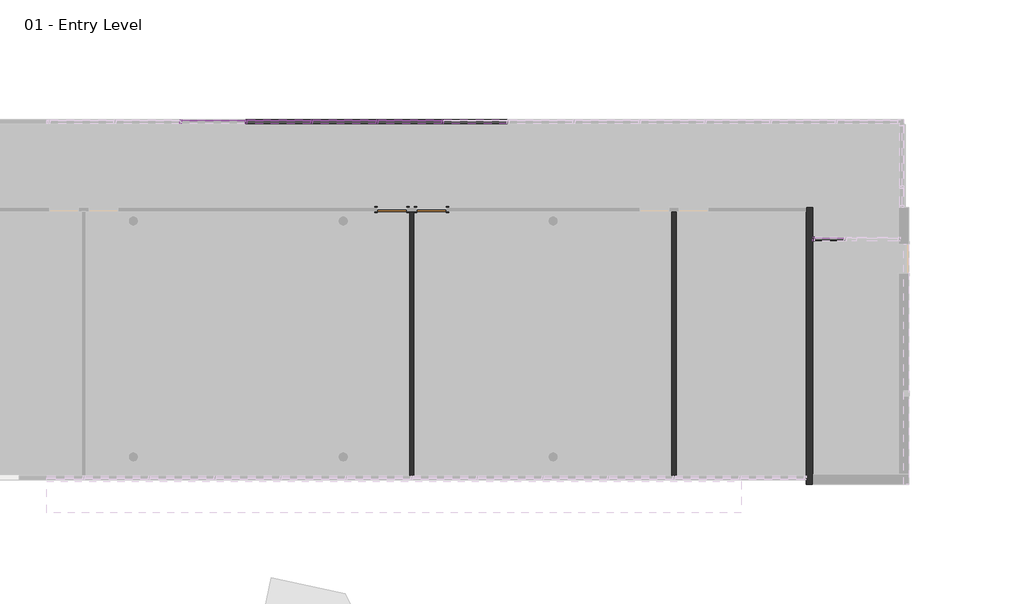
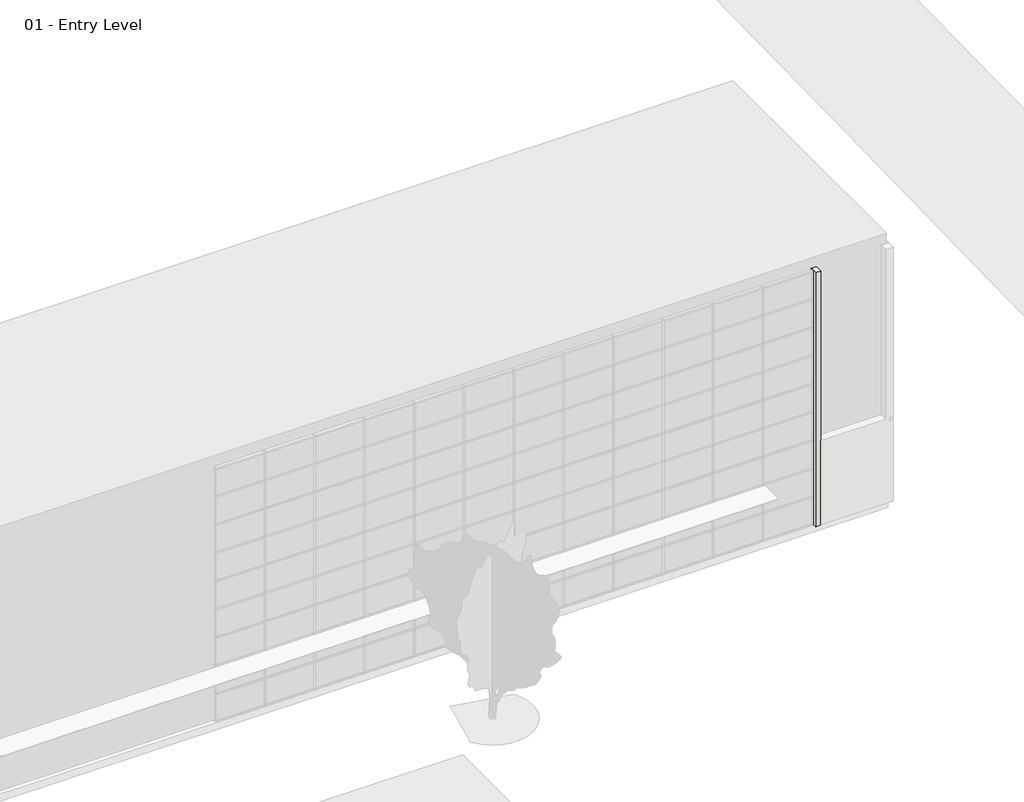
# One storey, part 20 of 34: 83 members, 38 plates, 3 doors, 3 walls.
"""IFC4 building model written with IfcOpenShell, lengths in millimetres."""

from ifc_helpers import new_model, si_unit, origin, origin_with_axes, place, context, project, spatial, polyline, outline, extrude, faceted_brep, transform, mapped, element, save
from components import curtain_wall_sgl_glass_curtain_wall_sgl_glass_ab2568d1, door_a1797ceb, door_a3eb833a, member_2b49869a, member_9193c932, member_391b434c, member_9e90ae50, member_c327c56d, member_a50b3cda, system_panel_glazed_1b9d6098, system_panel_glazed_70da479d, system_panel_glazed_63e32c76, system_panel_glazed_72fe8651

model = new_model("IFC4")

# Units and contexts
model_context = context("Model", 3, world=origin())
ifc_project = project(units=[si_unit("LENGTHUNIT", "METRE", prefix="MILLI")], contexts=[model_context])

# Site, building, storey
site = spatial("IfcSite", under=ifc_project)
building = spatial("IfcBuilding", under=site)
storey = spatial("IfcBuildingStorey", under=building, Name="01 - Entry Level", Elevation=0.0)

# Doors
placement = place(None, origin())
curtain_wall_sgl_glass_curtain_wall_sgl_glass_shape = curtain_wall_sgl_glass_curtain_wall_sgl_glass_ab2568d1(model_context)
element("IfcDoor", 1, ObjectType="Curtain Wall Sgl Glass : Curtain Wall Sgl Glass", at=placement, inside=storey, context=model_context, shape_type="MappedRepresentation", body=[
    mapped(curtain_wall_sgl_glass_curtain_wall_sgl_glass_shape, transform((63869.2207476, 7356.4, 0.0), x_axis=(-1.0, 0.0, 0.0), y_axis=(0.0, -1.0, 0.0), z_axis=(0.0, 0.0, 1.0))),
])
door_shape = door_a1797ceb(model_context)
element("IfcDoor", 2, ObjectType="Single-Flush : 36\" x 84\"", at=placement, inside=storey, context=model_context, shape_type="MappedRepresentation", body=[
    mapped(door_shape, transform((51524.8207476, 8270.8, 0.0), x_axis=(-1.0, 0.0, 0.0), y_axis=(0.0, -1.0, 0.0), z_axis=(0.0, 0.0, 1.0))),
])
door_2_shape = door_a3eb833a(model_context)
element("IfcDoor", 3, ObjectType="Single-Flush : 36\" x 84\"", at=placement, inside=storey, context=model_context, shape_type="MappedRepresentation", body=[
    mapped(door_2_shape, transform((50305.6207476, 8270.8, 0.0), x_axis=(1.0, 0.0, 0.0), y_axis=(0.0, 1.0, 0.0), z_axis=(0.0, 0.0, 1.0))),
])

# Members
member_shape = member_2b49869a(model_context)
element("IfcMember", 4, ObjectType="Rectangular Mullion : 2.5\" x 5\" rectangular", at=placement, inside=storey, context=model_context, shape_type="MappedRepresentation", body=[
    mapped(member_shape, transform((51880.4207476, 11001.3, 9753.6), x_axis=(-1.0, 0.0, 0.0), y_axis=(0.0, 1.0, 0.0), z_axis=(0.0, 0.0, -1.0))),
])
element("IfcMember", 5, ObjectType="Rectangular Mullion : 2.5\" x 5\" rectangular", at=placement, inside=storey, context=model_context, shape_type="MappedRepresentation", body=[
    mapped(member_shape, transform((49848.4207476, 11001.3, 9753.6), x_axis=(-1.0, 0.0, 0.0), y_axis=(0.0, 1.0, 0.0), z_axis=(0.0, 0.0, -1.0))),
])
element("IfcMember", 6, ObjectType="Rectangular Mullion : 2.5\" x 5\" rectangular", at=placement, inside=storey, context=model_context, shape_type="MappedRepresentation", body=[
    mapped(member_shape, transform((47816.4207476, 11001.3, 9753.6), x_axis=(-1.0, 0.0, 0.0), y_axis=(0.0, 1.0, 0.0), z_axis=(0.0, 0.0, -1.0))),
])
element("IfcMember", 7, ObjectType="Rectangular Mullion : 2.5\" x 5\" rectangular", at=placement, inside=storey, context=model_context, shape_type="MappedRepresentation", body=[
    mapped(member_shape, transform((45784.4207476, 11001.3, 9753.6), x_axis=(-1.0, 0.0, 0.0), y_axis=(0.0, 1.0, 0.0), z_axis=(0.0, 0.0, -1.0))),
])
element("IfcMember", 8, ObjectType="Rectangular Mullion : 2.5\" x 5\" rectangular", at=placement, inside=storey, context=model_context, shape_type="MappedRepresentation", body=[
    mapped(member_shape, transform((43752.4207476, 11001.3, 9753.6), x_axis=(-1.0, 0.0, 0.0), y_axis=(0.0, 1.0, 0.0), z_axis=(0.0, 0.0, -1.0))),
])
member_2_shape = member_9193c932(model_context)
element("IfcMember", 9, ObjectType="Rectangular Mullion : 2.5\" x 5\" rectangular", at=placement, inside=storey, context=model_context, shape_type="MappedRepresentation", body=[
    mapped(member_2_shape, transform((63348.5207476, 7356.4, 3403.6), x_axis=(-1.0, 0.0, 0.0), y_axis=(0.0, -1.0, 0.0), z_axis=(0.0, 0.0, 1.0))),
])
member_3_shape = member_391b434c(model_context)
element("IfcMember", 10, ObjectType="Rectangular Mullion : 2.5\" x 5\" rectangular", at=placement, inside=storey, context=model_context, shape_type="MappedRepresentation", body=[
    mapped(member_3_shape, transform((51912.1707476, 11001.3, 10972.8), x_axis=(0.0, 0.0, 1.0), y_axis=(0.0, 1.0, 0.0), z_axis=(-1.0, 0.0, 0.0))),
])
element("IfcMember", 11, ObjectType="Rectangular Mullion : 2.5\" x 5\" rectangular", at=placement, inside=storey, context=model_context, shape_type="MappedRepresentation", body=[
    mapped(member_3_shape, transform((49880.1707476, 11001.3, 10972.8), x_axis=(0.0, 0.0, 1.0), y_axis=(0.0, 1.0, 0.0), z_axis=(-1.0, 0.0, 0.0))),
])
element("IfcMember", 12, ObjectType="Rectangular Mullion : 2.5\" x 5\" rectangular", at=placement, inside=storey, context=model_context, shape_type="MappedRepresentation", body=[
    mapped(member_3_shape, transform((47848.1707476, 11001.3, 10972.8), x_axis=(0.0, 0.0, 1.0), y_axis=(0.0, 1.0, 0.0), z_axis=(-1.0, 0.0, 0.0))),
])
element("IfcMember", 13, ObjectType="Rectangular Mullion : 2.5\" x 5\" rectangular", at=placement, inside=storey, context=model_context, shape_type="MappedRepresentation", body=[
    mapped(member_3_shape, transform((45816.1707476, 11001.3, 10972.8), x_axis=(0.0, 0.0, 1.0), y_axis=(0.0, 1.0, 0.0), z_axis=(-1.0, 0.0, 0.0))),
])
element("IfcMember", 14, ObjectType="Rectangular Mullion : 2.5\" x 5\" rectangular", at=placement, inside=storey, context=model_context, shape_type="MappedRepresentation", body=[
    mapped(member_3_shape, transform((51848.6707476, 11001.3, 0.0), x_axis=(0.0, 0.0, -1.0), y_axis=(0.0, 1.0, 0.0), z_axis=(1.0, 0.0, 0.0))),
])
element("IfcMember", 15, ObjectType="Rectangular Mullion : 2.5\" x 5\" rectangular", at=placement, inside=storey, context=model_context, shape_type="MappedRepresentation", body=[
    mapped(member_3_shape, transform((49816.6707476, 11001.3, 0.0), x_axis=(0.0, 0.0, -1.0), y_axis=(0.0, 1.0, 0.0), z_axis=(1.0, 0.0, 0.0))),
])
element("IfcMember", 16, ObjectType="Rectangular Mullion : 2.5\" x 5\" rectangular", at=placement, inside=storey, context=model_context, shape_type="MappedRepresentation", body=[
    mapped(member_3_shape, transform((47784.6707476, 11001.3, 0.0), x_axis=(0.0, 0.0, -1.0), y_axis=(0.0, 1.0, 0.0), z_axis=(1.0, 0.0, 0.0))),
])
element("IfcMember", 17, ObjectType="Rectangular Mullion : 2.5\" x 5\" rectangular", at=placement, inside=storey, context=model_context, shape_type="MappedRepresentation", body=[
    mapped(member_3_shape, transform((45752.6707476, 11001.3, 0.0), x_axis=(0.0, 0.0, -1.0), y_axis=(0.0, 1.0, 0.0), z_axis=(1.0, 0.0, 0.0))),
])
member_4_shape = member_9e90ae50(model_context)
element("IfcMember", 18, ObjectType="Rectangular Mullion : 2.5\" x 5\" rectangular", at=placement, inside=storey, context=model_context, shape_type="MappedRepresentation", body=[
    mapped(member_4_shape, transform((51912.1707476, 11001.3, 1219.2), x_axis=(0.0, 0.0, 1.0), y_axis=(0.0, 1.0, 0.0), z_axis=(-1.0, 0.0, 0.0))),
])
element("IfcMember", 19, ObjectType="Rectangular Mullion : 2.5\" x 5\" rectangular", at=placement, inside=storey, context=model_context, shape_type="MappedRepresentation", body=[
    mapped(member_4_shape, transform((49880.1707476, 11001.3, 1219.2), x_axis=(0.0, 0.0, 1.0), y_axis=(0.0, 1.0, 0.0), z_axis=(-1.0, 0.0, 0.0))),
])
element("IfcMember", 20, ObjectType="Rectangular Mullion : 2.5\" x 5\" rectangular", at=placement, inside=storey, context=model_context, shape_type="MappedRepresentation", body=[
    mapped(member_4_shape, transform((47848.1707476, 11001.3, 1219.2), x_axis=(0.0, 0.0, 1.0), y_axis=(0.0, 1.0, 0.0), z_axis=(-1.0, 0.0, 0.0))),
])
element("IfcMember", 21, ObjectType="Rectangular Mullion : 2.5\" x 5\" rectangular", at=placement, inside=storey, context=model_context, shape_type="MappedRepresentation", body=[
    mapped(member_4_shape, transform((45816.1707476, 11001.3, 1219.2), x_axis=(0.0, 0.0, 1.0), y_axis=(0.0, 1.0, 0.0), z_axis=(-1.0, 0.0, 0.0))),
])
element("IfcMember", 22, ObjectType="Rectangular Mullion : 2.5\" x 5\" rectangular", at=placement, inside=storey, context=model_context, shape_type="MappedRepresentation", body=[
    mapped(member_4_shape, transform((51912.1707476, 11001.3, 2438.4), x_axis=(0.0, 0.0, 1.0), y_axis=(0.0, 1.0, 0.0), z_axis=(-1.0, 0.0, 0.0))),
])
element("IfcMember", 23, ObjectType="Rectangular Mullion : 2.5\" x 5\" rectangular", at=placement, inside=storey, context=model_context, shape_type="MappedRepresentation", body=[
    mapped(member_4_shape, transform((49880.1707476, 11001.3, 2438.4), x_axis=(0.0, 0.0, 1.0), y_axis=(0.0, 1.0, 0.0), z_axis=(-1.0, 0.0, 0.0))),
])
element("IfcMember", 24, ObjectType="Rectangular Mullion : 2.5\" x 5\" rectangular", at=placement, inside=storey, context=model_context, shape_type="MappedRepresentation", body=[
    mapped(member_4_shape, transform((47848.1707476, 11001.3, 2438.4), x_axis=(0.0, 0.0, 1.0), y_axis=(0.0, 1.0, 0.0), z_axis=(-1.0, 0.0, 0.0))),
])
element("IfcMember", 25, ObjectType="Rectangular Mullion : 2.5\" x 5\" rectangular", at=placement, inside=storey, context=model_context, shape_type="MappedRepresentation", body=[
    mapped(member_4_shape, transform((45816.1707476, 11001.3, 2438.4), x_axis=(0.0, 0.0, 1.0), y_axis=(0.0, 1.0, 0.0), z_axis=(-1.0, 0.0, 0.0))),
])
element("IfcMember", 26, ObjectType="Rectangular Mullion : 2.5\" x 5\" rectangular", at=placement, inside=storey, context=model_context, shape_type="MappedRepresentation", body=[
    mapped(member_4_shape, transform((51912.1707476, 11001.3, 3657.6), x_axis=(0.0, 0.0, 1.0), y_axis=(0.0, 1.0, 0.0), z_axis=(-1.0, 0.0, 0.0))),
])
element("IfcMember", 27, ObjectType="Rectangular Mullion : 2.5\" x 5\" rectangular", at=placement, inside=storey, context=model_context, shape_type="MappedRepresentation", body=[
    mapped(member_4_shape, transform((49880.1707476, 11001.3, 3657.6), x_axis=(0.0, 0.0, 1.0), y_axis=(0.0, 1.0, 0.0), z_axis=(-1.0, 0.0, 0.0))),
])
element("IfcMember", 28, ObjectType="Rectangular Mullion : 2.5\" x 5\" rectangular", at=placement, inside=storey, context=model_context, shape_type="MappedRepresentation", body=[
    mapped(member_4_shape, transform((47848.1707476, 11001.3, 3657.6), x_axis=(0.0, 0.0, 1.0), y_axis=(0.0, 1.0, 0.0), z_axis=(-1.0, 0.0, 0.0))),
])
element("IfcMember", 29, ObjectType="Rectangular Mullion : 2.5\" x 5\" rectangular", at=placement, inside=storey, context=model_context, shape_type="MappedRepresentation", body=[
    mapped(member_4_shape, transform((45816.1707476, 11001.3, 3657.6), x_axis=(0.0, 0.0, 1.0), y_axis=(0.0, 1.0, 0.0), z_axis=(-1.0, 0.0, 0.0))),
])
element("IfcMember", 30, ObjectType="Rectangular Mullion : 2.5\" x 5\" rectangular", at=placement, inside=storey, context=model_context, shape_type="MappedRepresentation", body=[
    mapped(member_4_shape, transform((51912.1707476, 11001.3, 4876.8), x_axis=(0.0, 0.0, 1.0), y_axis=(0.0, 1.0, 0.0), z_axis=(-1.0, 0.0, 0.0))),
])
element("IfcMember", 31, ObjectType="Rectangular Mullion : 2.5\" x 5\" rectangular", at=placement, inside=storey, context=model_context, shape_type="MappedRepresentation", body=[
    mapped(member_4_shape, transform((49880.1707476, 11001.3, 4876.8), x_axis=(0.0, 0.0, 1.0), y_axis=(0.0, 1.0, 0.0), z_axis=(-1.0, 0.0, 0.0))),
])
element("IfcMember", 32, ObjectType="Rectangular Mullion : 2.5\" x 5\" rectangular", at=placement, inside=storey, context=model_context, shape_type="MappedRepresentation", body=[
    mapped(member_4_shape, transform((47848.1707476, 11001.3, 4876.8), x_axis=(0.0, 0.0, 1.0), y_axis=(0.0, 1.0, 0.0), z_axis=(-1.0, 0.0, 0.0))),
])
element("IfcMember", 33, ObjectType="Rectangular Mullion : 2.5\" x 5\" rectangular", at=placement, inside=storey, context=model_context, shape_type="MappedRepresentation", body=[
    mapped(member_4_shape, transform((45816.1707476, 11001.3, 4876.8), x_axis=(0.0, 0.0, 1.0), y_axis=(0.0, 1.0, 0.0), z_axis=(-1.0, 0.0, 0.0))),
])
element("IfcMember", 34, ObjectType="Rectangular Mullion : 2.5\" x 5\" rectangular", at=placement, inside=storey, context=model_context, shape_type="MappedRepresentation", body=[
    mapped(member_4_shape, transform((51912.1707476, 11001.3, 6096.0), x_axis=(0.0, 0.0, 1.0), y_axis=(0.0, 1.0, 0.0), z_axis=(-1.0, 0.0, 0.0))),
])
element("IfcMember", 35, ObjectType="Rectangular Mullion : 2.5\" x 5\" rectangular", at=placement, inside=storey, context=model_context, shape_type="MappedRepresentation", body=[
    mapped(member_4_shape, transform((49880.1707476, 11001.3, 6096.0), x_axis=(0.0, 0.0, 1.0), y_axis=(0.0, 1.0, 0.0), z_axis=(-1.0, 0.0, 0.0))),
])
element("IfcMember", 36, ObjectType="Rectangular Mullion : 2.5\" x 5\" rectangular", at=placement, inside=storey, context=model_context, shape_type="MappedRepresentation", body=[
    mapped(member_4_shape, transform((47848.1707476, 11001.3, 6096.0), x_axis=(0.0, 0.0, 1.0), y_axis=(0.0, 1.0, 0.0), z_axis=(-1.0, 0.0, 0.0))),
])
element("IfcMember", 37, ObjectType="Rectangular Mullion : 2.5\" x 5\" rectangular", at=placement, inside=storey, context=model_context, shape_type="MappedRepresentation", body=[
    mapped(member_4_shape, transform((45816.1707476, 11001.3, 6096.0), x_axis=(0.0, 0.0, 1.0), y_axis=(0.0, 1.0, 0.0), z_axis=(-1.0, 0.0, 0.0))),
])
element("IfcMember", 38, ObjectType="Rectangular Mullion : 2.5\" x 5\" rectangular", at=placement, inside=storey, context=model_context, shape_type="MappedRepresentation", body=[
    mapped(member_4_shape, transform((51912.1707476, 11001.3, 7315.2), x_axis=(0.0, 0.0, 1.0), y_axis=(0.0, 1.0, 0.0), z_axis=(-1.0, 0.0, 0.0))),
])
element("IfcMember", 39, ObjectType="Rectangular Mullion : 2.5\" x 5\" rectangular", at=placement, inside=storey, context=model_context, shape_type="MappedRepresentation", body=[
    mapped(member_4_shape, transform((49880.1707476, 11001.3, 7315.2), x_axis=(0.0, 0.0, 1.0), y_axis=(0.0, 1.0, 0.0), z_axis=(-1.0, 0.0, 0.0))),
])
element("IfcMember", 40, ObjectType="Rectangular Mullion : 2.5\" x 5\" rectangular", at=placement, inside=storey, context=model_context, shape_type="MappedRepresentation", body=[
    mapped(member_4_shape, transform((47848.1707476, 11001.3, 7315.2), x_axis=(0.0, 0.0, 1.0), y_axis=(0.0, 1.0, 0.0), z_axis=(-1.0, 0.0, 0.0))),
])
element("IfcMember", 41, ObjectType="Rectangular Mullion : 2.5\" x 5\" rectangular", at=placement, inside=storey, context=model_context, shape_type="MappedRepresentation", body=[
    mapped(member_4_shape, transform((45816.1707476, 11001.3, 7315.2), x_axis=(0.0, 0.0, 1.0), y_axis=(0.0, 1.0, 0.0), z_axis=(-1.0, 0.0, 0.0))),
])
element("IfcMember", 42, ObjectType="Rectangular Mullion : 2.5\" x 5\" rectangular", at=placement, inside=storey, context=model_context, shape_type="MappedRepresentation", body=[
    mapped(member_4_shape, transform((51912.1707476, 11001.3, 8534.4), x_axis=(0.0, 0.0, 1.0), y_axis=(0.0, 1.0, 0.0), z_axis=(-1.0, 0.0, 0.0))),
])
element("IfcMember", 43, ObjectType="Rectangular Mullion : 2.5\" x 5\" rectangular", at=placement, inside=storey, context=model_context, shape_type="MappedRepresentation", body=[
    mapped(member_4_shape, transform((49880.1707476, 11001.3, 8534.4), x_axis=(0.0, 0.0, 1.0), y_axis=(0.0, 1.0, 0.0), z_axis=(-1.0, 0.0, 0.0))),
])
element("IfcMember", 44, ObjectType="Rectangular Mullion : 2.5\" x 5\" rectangular", at=placement, inside=storey, context=model_context, shape_type="MappedRepresentation", body=[
    mapped(member_4_shape, transform((47848.1707476, 11001.3, 8534.4), x_axis=(0.0, 0.0, 1.0), y_axis=(0.0, 1.0, 0.0), z_axis=(-1.0, 0.0, 0.0))),
])
element("IfcMember", 45, ObjectType="Rectangular Mullion : 2.5\" x 5\" rectangular", at=placement, inside=storey, context=model_context, shape_type="MappedRepresentation", body=[
    mapped(member_4_shape, transform((45816.1707476, 11001.3, 8534.4), x_axis=(0.0, 0.0, 1.0), y_axis=(0.0, 1.0, 0.0), z_axis=(-1.0, 0.0, 0.0))),
])
element("IfcMember", 46, ObjectType="Rectangular Mullion : 2.5\" x 5\" rectangular", at=placement, inside=storey, context=model_context, shape_type="MappedRepresentation", body=[
    mapped(member_4_shape, transform((51912.1707476, 11001.3, 9753.6), x_axis=(0.0, 0.0, 1.0), y_axis=(0.0, 1.0, 0.0), z_axis=(-1.0, 0.0, 0.0))),
])
element("IfcMember", 47, ObjectType="Rectangular Mullion : 2.5\" x 5\" rectangular", at=placement, inside=storey, context=model_context, shape_type="MappedRepresentation", body=[
    mapped(member_4_shape, transform((49880.1707476, 11001.3, 9753.6), x_axis=(0.0, 0.0, 1.0), y_axis=(0.0, 1.0, 0.0), z_axis=(-1.0, 0.0, 0.0))),
])
element("IfcMember", 48, ObjectType="Rectangular Mullion : 2.5\" x 5\" rectangular", at=placement, inside=storey, context=model_context, shape_type="MappedRepresentation", body=[
    mapped(member_4_shape, transform((47848.1707476, 11001.3, 9753.6), x_axis=(0.0, 0.0, 1.0), y_axis=(0.0, 1.0, 0.0), z_axis=(-1.0, 0.0, 0.0))),
])
element("IfcMember", 49, ObjectType="Rectangular Mullion : 2.5\" x 5\" rectangular", at=placement, inside=storey, context=model_context, shape_type="MappedRepresentation", body=[
    mapped(member_4_shape, transform((45816.1707476, 11001.3, 9753.6), x_axis=(0.0, 0.0, 1.0), y_axis=(0.0, 1.0, 0.0), z_axis=(-1.0, 0.0, 0.0))),
])
element("IfcMember", 50, ObjectType="Rectangular Mullion : 2.5\" x 5\" rectangular", at=placement, inside=storey, context=model_context, shape_type="MappedRepresentation", body=[
    mapped(member_shape, transform((51880.4207476, 11001.3, 0.0), x_axis=(-1.0, 0.0, 0.0), y_axis=(0.0, 1.0, 0.0), z_axis=(0.0, 0.0, -1.0))),
])
element("IfcMember", 51, ObjectType="Rectangular Mullion : 2.5\" x 5\" rectangular", at=placement, inside=storey, context=model_context, shape_type="MappedRepresentation", body=[
    mapped(member_shape, transform((49848.4207476, 11001.3, 0.0), x_axis=(-1.0, 0.0, 0.0), y_axis=(0.0, 1.0, 0.0), z_axis=(0.0, 0.0, -1.0))),
])
element("IfcMember", 52, ObjectType="Rectangular Mullion : 2.5\" x 5\" rectangular", at=placement, inside=storey, context=model_context, shape_type="MappedRepresentation", body=[
    mapped(member_shape, transform((47816.4207476, 11001.3, 0.0), x_axis=(-1.0, 0.0, 0.0), y_axis=(0.0, 1.0, 0.0), z_axis=(0.0, 0.0, -1.0))),
])
element("IfcMember", 53, ObjectType="Rectangular Mullion : 2.5\" x 5\" rectangular", at=placement, inside=storey, context=model_context, shape_type="MappedRepresentation", body=[
    mapped(member_shape, transform((45784.4207476, 11001.3, 0.0), x_axis=(-1.0, 0.0, 0.0), y_axis=(0.0, 1.0, 0.0), z_axis=(0.0, 0.0, -1.0))),
])
element("IfcMember", 54, ObjectType="Rectangular Mullion : 2.5\" x 5\" rectangular", at=placement, inside=storey, context=model_context, shape_type="MappedRepresentation", body=[
    mapped(member_shape, transform((51880.4207476, 11001.3, 1219.2), x_axis=(-1.0, 0.0, 0.0), y_axis=(0.0, 1.0, 0.0), z_axis=(0.0, 0.0, -1.0))),
])
element("IfcMember", 55, ObjectType="Rectangular Mullion : 2.5\" x 5\" rectangular", at=placement, inside=storey, context=model_context, shape_type="MappedRepresentation", body=[
    mapped(member_shape, transform((49848.4207476, 11001.3, 1219.2), x_axis=(-1.0, 0.0, 0.0), y_axis=(0.0, 1.0, 0.0), z_axis=(0.0, 0.0, -1.0))),
])
element("IfcMember", 56, ObjectType="Rectangular Mullion : 2.5\" x 5\" rectangular", at=placement, inside=storey, context=model_context, shape_type="MappedRepresentation", body=[
    mapped(member_shape, transform((47816.4207476, 11001.3, 1219.2), x_axis=(-1.0, 0.0, 0.0), y_axis=(0.0, 1.0, 0.0), z_axis=(0.0, 0.0, -1.0))),
])
element("IfcMember", 57, ObjectType="Rectangular Mullion : 2.5\" x 5\" rectangular", at=placement, inside=storey, context=model_context, shape_type="MappedRepresentation", body=[
    mapped(member_shape, transform((45784.4207476, 11001.3, 1219.2), x_axis=(-1.0, 0.0, 0.0), y_axis=(0.0, 1.0, 0.0), z_axis=(0.0, 0.0, -1.0))),
])
element("IfcMember", 58, ObjectType="Rectangular Mullion : 2.5\" x 5\" rectangular", at=placement, inside=storey, context=model_context, shape_type="MappedRepresentation", body=[
    mapped(member_shape, transform((51880.4207476, 11001.3, 2438.4), x_axis=(-1.0, 0.0, 0.0), y_axis=(0.0, 1.0, 0.0), z_axis=(0.0, 0.0, -1.0))),
])
element("IfcMember", 59, ObjectType="Rectangular Mullion : 2.5\" x 5\" rectangular", at=placement, inside=storey, context=model_context, shape_type="MappedRepresentation", body=[
    mapped(member_shape, transform((49848.4207476, 11001.3, 2438.4), x_axis=(-1.0, 0.0, 0.0), y_axis=(0.0, 1.0, 0.0), z_axis=(0.0, 0.0, -1.0))),
])
element("IfcMember", 60, ObjectType="Rectangular Mullion : 2.5\" x 5\" rectangular", at=placement, inside=storey, context=model_context, shape_type="MappedRepresentation", body=[
    mapped(member_shape, transform((47816.4207476, 11001.3, 2438.4), x_axis=(-1.0, 0.0, 0.0), y_axis=(0.0, 1.0, 0.0), z_axis=(0.0, 0.0, -1.0))),
])
element("IfcMember", 61, ObjectType="Rectangular Mullion : 2.5\" x 5\" rectangular", at=placement, inside=storey, context=model_context, shape_type="MappedRepresentation", body=[
    mapped(member_shape, transform((45784.4207476, 11001.3, 2438.4), x_axis=(-1.0, 0.0, 0.0), y_axis=(0.0, 1.0, 0.0), z_axis=(0.0, 0.0, -1.0))),
])
element("IfcMember", 62, ObjectType="Rectangular Mullion : 2.5\" x 5\" rectangular", at=placement, inside=storey, context=model_context, shape_type="MappedRepresentation", body=[
    mapped(member_shape, transform((51880.4207476, 11001.3, 3657.6), x_axis=(-1.0, 0.0, 0.0), y_axis=(0.0, 1.0, 0.0), z_axis=(0.0, 0.0, -1.0))),
])
element("IfcMember", 63, ObjectType="Rectangular Mullion : 2.5\" x 5\" rectangular", at=placement, inside=storey, context=model_context, shape_type="MappedRepresentation", body=[
    mapped(member_shape, transform((49848.4207476, 11001.3, 3657.6), x_axis=(-1.0, 0.0, 0.0), y_axis=(0.0, 1.0, 0.0), z_axis=(0.0, 0.0, -1.0))),
])
element("IfcMember", 64, ObjectType="Rectangular Mullion : 2.5\" x 5\" rectangular", at=placement, inside=storey, context=model_context, shape_type="MappedRepresentation", body=[
    mapped(member_shape, transform((47816.4207476, 11001.3, 3657.6), x_axis=(-1.0, 0.0, 0.0), y_axis=(0.0, 1.0, 0.0), z_axis=(0.0, 0.0, -1.0))),
])
element("IfcMember", 65, ObjectType="Rectangular Mullion : 2.5\" x 5\" rectangular", at=placement, inside=storey, context=model_context, shape_type="MappedRepresentation", body=[
    mapped(member_shape, transform((45784.4207476, 11001.3, 3657.6), x_axis=(-1.0, 0.0, 0.0), y_axis=(0.0, 1.0, 0.0), z_axis=(0.0, 0.0, -1.0))),
])
element("IfcMember", 66, ObjectType="Rectangular Mullion : 2.5\" x 5\" rectangular", at=placement, inside=storey, context=model_context, shape_type="MappedRepresentation", body=[
    mapped(member_shape, transform((51880.4207476, 11001.3, 4876.8), x_axis=(-1.0, 0.0, 0.0), y_axis=(0.0, 1.0, 0.0), z_axis=(0.0, 0.0, -1.0))),
])
element("IfcMember", 67, ObjectType="Rectangular Mullion : 2.5\" x 5\" rectangular", at=placement, inside=storey, context=model_context, shape_type="MappedRepresentation", body=[
    mapped(member_shape, transform((49848.4207476, 11001.3, 4876.8), x_axis=(-1.0, 0.0, 0.0), y_axis=(0.0, 1.0, 0.0), z_axis=(0.0, 0.0, -1.0))),
])
element("IfcMember", 68, ObjectType="Rectangular Mullion : 2.5\" x 5\" rectangular", at=placement, inside=storey, context=model_context, shape_type="MappedRepresentation", body=[
    mapped(member_shape, transform((47816.4207476, 11001.3, 4876.8), x_axis=(-1.0, 0.0, 0.0), y_axis=(0.0, 1.0, 0.0), z_axis=(0.0, 0.0, -1.0))),
])
element("IfcMember", 69, ObjectType="Rectangular Mullion : 2.5\" x 5\" rectangular", at=placement, inside=storey, context=model_context, shape_type="MappedRepresentation", body=[
    mapped(member_shape, transform((45784.4207476, 11001.3, 4876.8), x_axis=(-1.0, 0.0, 0.0), y_axis=(0.0, 1.0, 0.0), z_axis=(0.0, 0.0, -1.0))),
])
element("IfcMember", 70, ObjectType="Rectangular Mullion : 2.5\" x 5\" rectangular", at=placement, inside=storey, context=model_context, shape_type="MappedRepresentation", body=[
    mapped(member_shape, transform((51880.4207476, 11001.3, 6096.0), x_axis=(-1.0, 0.0, 0.0), y_axis=(0.0, 1.0, 0.0), z_axis=(0.0, 0.0, -1.0))),
])
element("IfcMember", 71, ObjectType="Rectangular Mullion : 2.5\" x 5\" rectangular", at=placement, inside=storey, context=model_context, shape_type="MappedRepresentation", body=[
    mapped(member_shape, transform((49848.4207476, 11001.3, 6096.0), x_axis=(-1.0, 0.0, 0.0), y_axis=(0.0, 1.0, 0.0), z_axis=(0.0, 0.0, -1.0))),
])
element("IfcMember", 72, ObjectType="Rectangular Mullion : 2.5\" x 5\" rectangular", at=placement, inside=storey, context=model_context, shape_type="MappedRepresentation", body=[
    mapped(member_shape, transform((47816.4207476, 11001.3, 6096.0), x_axis=(-1.0, 0.0, 0.0), y_axis=(0.0, 1.0, 0.0), z_axis=(0.0, 0.0, -1.0))),
])
element("IfcMember", 73, ObjectType="Rectangular Mullion : 2.5\" x 5\" rectangular", at=placement, inside=storey, context=model_context, shape_type="MappedRepresentation", body=[
    mapped(member_shape, transform((45784.4207476, 11001.3, 6096.0), x_axis=(-1.0, 0.0, 0.0), y_axis=(0.0, 1.0, 0.0), z_axis=(0.0, 0.0, -1.0))),
])
element("IfcMember", 74, ObjectType="Rectangular Mullion : 2.5\" x 5\" rectangular", at=placement, inside=storey, context=model_context, shape_type="MappedRepresentation", body=[
    mapped(member_shape, transform((43752.4207476, 11001.3, 6096.0), x_axis=(-1.0, 0.0, 0.0), y_axis=(0.0, 1.0, 0.0), z_axis=(0.0, 0.0, -1.0))),
])
element("IfcMember", 75, ObjectType="Rectangular Mullion : 2.5\" x 5\" rectangular", at=placement, inside=storey, context=model_context, shape_type="MappedRepresentation", body=[
    mapped(member_shape, transform((51880.4207476, 11001.3, 7315.2), x_axis=(-1.0, 0.0, 0.0), y_axis=(0.0, 1.0, 0.0), z_axis=(0.0, 0.0, -1.0))),
])
element("IfcMember", 76, ObjectType="Rectangular Mullion : 2.5\" x 5\" rectangular", at=placement, inside=storey, context=model_context, shape_type="MappedRepresentation", body=[
    mapped(member_shape, transform((49848.4207476, 11001.3, 7315.2), x_axis=(-1.0, 0.0, 0.0), y_axis=(0.0, 1.0, 0.0), z_axis=(0.0, 0.0, -1.0))),
])
element("IfcMember", 77, ObjectType="Rectangular Mullion : 2.5\" x 5\" rectangular", at=placement, inside=storey, context=model_context, shape_type="MappedRepresentation", body=[
    mapped(member_shape, transform((47816.4207476, 11001.3, 7315.2), x_axis=(-1.0, 0.0, 0.0), y_axis=(0.0, 1.0, 0.0), z_axis=(0.0, 0.0, -1.0))),
])
element("IfcMember", 78, ObjectType="Rectangular Mullion : 2.5\" x 5\" rectangular", at=placement, inside=storey, context=model_context, shape_type="MappedRepresentation", body=[
    mapped(member_shape, transform((45784.4207476, 11001.3, 7315.2), x_axis=(-1.0, 0.0, 0.0), y_axis=(0.0, 1.0, 0.0), z_axis=(0.0, 0.0, -1.0))),
])
element("IfcMember", 79, ObjectType="Rectangular Mullion : 2.5\" x 5\" rectangular", at=placement, inside=storey, context=model_context, shape_type="MappedRepresentation", body=[
    mapped(member_shape, transform((43752.4207476, 11001.3, 7315.2), x_axis=(-1.0, 0.0, 0.0), y_axis=(0.0, 1.0, 0.0), z_axis=(0.0, 0.0, -1.0))),
])
element("IfcMember", 80, ObjectType="Rectangular Mullion : 2.5\" x 5\" rectangular", at=placement, inside=storey, context=model_context, shape_type="MappedRepresentation", body=[
    mapped(member_shape, transform((51880.4207476, 11001.3, 8534.4), x_axis=(-1.0, 0.0, 0.0), y_axis=(0.0, 1.0, 0.0), z_axis=(0.0, 0.0, -1.0))),
])
element("IfcMember", 81, ObjectType="Rectangular Mullion : 2.5\" x 5\" rectangular", at=placement, inside=storey, context=model_context, shape_type="MappedRepresentation", body=[
    mapped(member_shape, transform((49848.4207476, 11001.3, 8534.4), x_axis=(-1.0, 0.0, 0.0), y_axis=(0.0, 1.0, 0.0), z_axis=(0.0, 0.0, -1.0))),
])
element("IfcMember", 82, ObjectType="Rectangular Mullion : 2.5\" x 5\" rectangular", at=placement, inside=storey, context=model_context, shape_type="MappedRepresentation", body=[
    mapped(member_shape, transform((47816.4207476, 11001.3, 8534.4), x_axis=(-1.0, 0.0, 0.0), y_axis=(0.0, 1.0, 0.0), z_axis=(0.0, 0.0, -1.0))),
])
element("IfcMember", 83, ObjectType="Rectangular Mullion : 2.5\" x 5\" rectangular", at=placement, inside=storey, context=model_context, shape_type="MappedRepresentation", body=[
    mapped(member_shape, transform((45784.4207476, 11001.3, 8534.4), x_axis=(-1.0, 0.0, 0.0), y_axis=(0.0, 1.0, 0.0), z_axis=(0.0, 0.0, -1.0))),
])
element("IfcMember", 84, ObjectType="Rectangular Mullion : 2.5\" x 5\" rectangular", at=placement, inside=storey, context=model_context, shape_type="MappedRepresentation", body=[
    mapped(member_shape, transform((43752.4207476, 11001.3, 8534.4), x_axis=(-1.0, 0.0, 0.0), y_axis=(0.0, 1.0, 0.0), z_axis=(0.0, 0.0, -1.0))),
])
member_5_shape = member_c327c56d(model_context)
element("IfcMember", 85, ObjectType="Rectangular Mullion : 2.5\" x 5\" rectangular", at=placement, inside=storey, context=model_context, shape_type="MappedRepresentation", body=[
    mapped(member_5_shape, transform((63348.5207476, 7356.4, 2438.4), x_axis=(-1.0, 0.0, 0.0), y_axis=(0.0, -1.0, 0.0), z_axis=(0.0, 0.0, 1.0))),
])
member_6_shape = member_a50b3cda(model_context)
element("IfcMember", 86, ObjectType="Rectangular Mullion : 2.5\" x 5\" rectangular", at=placement, inside=storey, context=model_context, shape_type="MappedRepresentation", body=[
    mapped(member_6_shape, transform((63348.5207476, 7356.4, 2165.35), x_axis=(-1.0, 0.0, 0.0), y_axis=(0.0, -1.0, 0.0), z_axis=(0.0, 0.0, 1.0))),
])

# Plates
system_panel_glazed_shape = system_panel_glazed_1b9d6098(model_context)
element("IfcPlate", 87, ObjectType="System Panel : Glazed", at=placement, inside=storey, context=model_context, shape_type="MappedRepresentation", body=[
    mapped(system_panel_glazed_shape, transform((50864.4207476, 11001.3, 63.5), x_axis=(-1.0, 0.0, 0.0), y_axis=(0.0, -1.0, 0.0), z_axis=(0.0, 0.0, 1.0))),
])
element("IfcPlate", 88, ObjectType="System Panel : Glazed", at=placement, inside=storey, context=model_context, shape_type="MappedRepresentation", body=[
    mapped(system_panel_glazed_shape, transform((48832.4207476, 11001.3, 63.5), x_axis=(-1.0, 0.0, 0.0), y_axis=(0.0, -1.0, 0.0), z_axis=(0.0, 0.0, 1.0))),
])
element("IfcPlate", 89, ObjectType="System Panel : Glazed", at=placement, inside=storey, context=model_context, shape_type="MappedRepresentation", body=[
    mapped(system_panel_glazed_shape, transform((46800.4207476, 11001.3, 63.5), x_axis=(-1.0, 0.0, 0.0), y_axis=(0.0, -1.0, 0.0), z_axis=(0.0, 0.0, 1.0))),
])
element("IfcPlate", 90, ObjectType="System Panel : Glazed", at=placement, inside=storey, context=model_context, shape_type="MappedRepresentation", body=[
    mapped(system_panel_glazed_shape, transform((44768.4207476, 11001.3, 63.5), x_axis=(-1.0, 0.0, 0.0), y_axis=(0.0, -1.0, 0.0), z_axis=(0.0, 0.0, 1.0))),
])
element("IfcPlate", 91, ObjectType="System Panel : Glazed", at=placement, inside=storey, context=model_context, shape_type="MappedRepresentation", body=[
    mapped(system_panel_glazed_shape, transform((50864.4207476, 11001.3, 9785.35), x_axis=(-1.0, 0.0, 0.0), y_axis=(0.0, -1.0, 0.0), z_axis=(0.0, 0.0, 1.0))),
])
element("IfcPlate", 92, ObjectType="System Panel : Glazed", at=placement, inside=storey, context=model_context, shape_type="MappedRepresentation", body=[
    mapped(system_panel_glazed_shape, transform((48832.4207476, 11001.3, 9785.35), x_axis=(-1.0, 0.0, 0.0), y_axis=(0.0, -1.0, 0.0), z_axis=(0.0, 0.0, 1.0))),
])
element("IfcPlate", 93, ObjectType="System Panel : Glazed", at=placement, inside=storey, context=model_context, shape_type="MappedRepresentation", body=[
    mapped(system_panel_glazed_shape, transform((46800.4207476, 11001.3, 9785.35), x_axis=(-1.0, 0.0, 0.0), y_axis=(0.0, -1.0, 0.0), z_axis=(0.0, 0.0, 1.0))),
])
element("IfcPlate", 94, ObjectType="System Panel : Glazed", at=placement, inside=storey, context=model_context, shape_type="MappedRepresentation", body=[
    mapped(system_panel_glazed_shape, transform((44768.4207476, 11001.3, 9785.35), x_axis=(-1.0, 0.0, 0.0), y_axis=(0.0, -1.0, 0.0), z_axis=(0.0, 0.0, 1.0))),
])
system_panel_glazed_2_shape = system_panel_glazed_70da479d(model_context)
element("IfcPlate", 95, ObjectType="System Panel : Glazed", at=placement, inside=storey, context=model_context, shape_type="MappedRepresentation", body=[
    mapped(system_panel_glazed_2_shape, transform((50864.4207476, 11001.3, 1250.95), x_axis=(-1.0, 0.0, 0.0), y_axis=(0.0, -1.0, 0.0), z_axis=(0.0, 0.0, 1.0))),
])
element("IfcPlate", 96, ObjectType="System Panel : Glazed", at=placement, inside=storey, context=model_context, shape_type="MappedRepresentation", body=[
    mapped(system_panel_glazed_2_shape, transform((48832.4207476, 11001.3, 1250.95), x_axis=(-1.0, 0.0, 0.0), y_axis=(0.0, -1.0, 0.0), z_axis=(0.0, 0.0, 1.0))),
])
element("IfcPlate", 97, ObjectType="System Panel : Glazed", at=placement, inside=storey, context=model_context, shape_type="MappedRepresentation", body=[
    mapped(system_panel_glazed_2_shape, transform((46800.4207476, 11001.3, 1250.95), x_axis=(-1.0, 0.0, 0.0), y_axis=(0.0, -1.0, 0.0), z_axis=(0.0, 0.0, 1.0))),
])
element("IfcPlate", 98, ObjectType="System Panel : Glazed", at=placement, inside=storey, context=model_context, shape_type="MappedRepresentation", body=[
    mapped(system_panel_glazed_2_shape, transform((44768.4207476, 11001.3, 1250.95), x_axis=(-1.0, 0.0, 0.0), y_axis=(0.0, -1.0, 0.0), z_axis=(0.0, 0.0, 1.0))),
])
element("IfcPlate", 99, ObjectType="System Panel : Glazed", at=placement, inside=storey, context=model_context, shape_type="MappedRepresentation", body=[
    mapped(system_panel_glazed_2_shape, transform((50864.4207476, 11001.3, 2470.15), x_axis=(-1.0, 0.0, 0.0), y_axis=(0.0, -1.0, 0.0), z_axis=(0.0, 0.0, 1.0))),
])
element("IfcPlate", 100, ObjectType="System Panel : Glazed", at=placement, inside=storey, context=model_context, shape_type="MappedRepresentation", body=[
    mapped(system_panel_glazed_2_shape, transform((48832.4207476, 11001.3, 2470.15), x_axis=(-1.0, 0.0, 0.0), y_axis=(0.0, -1.0, 0.0), z_axis=(0.0, 0.0, 1.0))),
])
element("IfcPlate", 101, ObjectType="System Panel : Glazed", at=placement, inside=storey, context=model_context, shape_type="MappedRepresentation", body=[
    mapped(system_panel_glazed_2_shape, transform((46800.4207476, 11001.3, 2470.15), x_axis=(-1.0, 0.0, 0.0), y_axis=(0.0, -1.0, 0.0), z_axis=(0.0, 0.0, 1.0))),
])
element("IfcPlate", 102, ObjectType="System Panel : Glazed", at=placement, inside=storey, context=model_context, shape_type="MappedRepresentation", body=[
    mapped(system_panel_glazed_2_shape, transform((44768.4207476, 11001.3, 2470.15), x_axis=(-1.0, 0.0, 0.0), y_axis=(0.0, -1.0, 0.0), z_axis=(0.0, 0.0, 1.0))),
])
element("IfcPlate", 103, ObjectType="System Panel : Glazed", at=placement, inside=storey, context=model_context, shape_type="MappedRepresentation", body=[
    mapped(system_panel_glazed_2_shape, transform((50864.4207476, 11001.3, 3689.35), x_axis=(-1.0, 0.0, 0.0), y_axis=(0.0, -1.0, 0.0), z_axis=(0.0, 0.0, 1.0))),
])
element("IfcPlate", 104, ObjectType="System Panel : Glazed", at=placement, inside=storey, context=model_context, shape_type="MappedRepresentation", body=[
    mapped(system_panel_glazed_2_shape, transform((48832.4207476, 11001.3, 3689.35), x_axis=(-1.0, 0.0, 0.0), y_axis=(0.0, -1.0, 0.0), z_axis=(0.0, 0.0, 1.0))),
])
element("IfcPlate", 105, ObjectType="System Panel : Glazed", at=placement, inside=storey, context=model_context, shape_type="MappedRepresentation", body=[
    mapped(system_panel_glazed_2_shape, transform((46800.4207476, 11001.3, 3689.35), x_axis=(-1.0, 0.0, 0.0), y_axis=(0.0, -1.0, 0.0), z_axis=(0.0, 0.0, 1.0))),
])
element("IfcPlate", 106, ObjectType="System Panel : Glazed", at=placement, inside=storey, context=model_context, shape_type="MappedRepresentation", body=[
    mapped(system_panel_glazed_2_shape, transform((44768.4207476, 11001.3, 3689.35), x_axis=(-1.0, 0.0, 0.0), y_axis=(0.0, -1.0, 0.0), z_axis=(0.0, 0.0, 1.0))),
])
element("IfcPlate", 107, ObjectType="System Panel : Glazed", at=placement, inside=storey, context=model_context, shape_type="MappedRepresentation", body=[
    mapped(system_panel_glazed_2_shape, transform((50864.4207476, 11001.3, 4908.55), x_axis=(-1.0, 0.0, 0.0), y_axis=(0.0, -1.0, 0.0), z_axis=(0.0, 0.0, 1.0))),
])
element("IfcPlate", 108, ObjectType="System Panel : Glazed", at=placement, inside=storey, context=model_context, shape_type="MappedRepresentation", body=[
    mapped(system_panel_glazed_2_shape, transform((48832.4207476, 11001.3, 4908.55), x_axis=(-1.0, 0.0, 0.0), y_axis=(0.0, -1.0, 0.0), z_axis=(0.0, 0.0, 1.0))),
])
element("IfcPlate", 109, ObjectType="System Panel : Glazed", at=placement, inside=storey, context=model_context, shape_type="MappedRepresentation", body=[
    mapped(system_panel_glazed_2_shape, transform((46800.4207476, 11001.3, 4908.55), x_axis=(-1.0, 0.0, 0.0), y_axis=(0.0, -1.0, 0.0), z_axis=(0.0, 0.0, 1.0))),
])
element("IfcPlate", 110, ObjectType="System Panel : Glazed", at=placement, inside=storey, context=model_context, shape_type="MappedRepresentation", body=[
    mapped(system_panel_glazed_2_shape, transform((44768.4207476, 11001.3, 4908.55), x_axis=(-1.0, 0.0, 0.0), y_axis=(0.0, -1.0, 0.0), z_axis=(0.0, 0.0, 1.0))),
])
element("IfcPlate", 111, ObjectType="System Panel : Glazed", at=placement, inside=storey, context=model_context, shape_type="MappedRepresentation", body=[
    mapped(system_panel_glazed_2_shape, transform((50864.4207476, 11001.3, 6127.75), x_axis=(-1.0, 0.0, 0.0), y_axis=(0.0, -1.0, 0.0), z_axis=(0.0, 0.0, 1.0))),
])
element("IfcPlate", 112, ObjectType="System Panel : Glazed", at=placement, inside=storey, context=model_context, shape_type="MappedRepresentation", body=[
    mapped(system_panel_glazed_2_shape, transform((48832.4207476, 11001.3, 6127.75), x_axis=(-1.0, 0.0, 0.0), y_axis=(0.0, -1.0, 0.0), z_axis=(0.0, 0.0, 1.0))),
])
element("IfcPlate", 113, ObjectType="System Panel : Glazed", at=placement, inside=storey, context=model_context, shape_type="MappedRepresentation", body=[
    mapped(system_panel_glazed_2_shape, transform((46800.4207476, 11001.3, 6127.75), x_axis=(-1.0, 0.0, 0.0), y_axis=(0.0, -1.0, 0.0), z_axis=(0.0, 0.0, 1.0))),
])
element("IfcPlate", 114, ObjectType="System Panel : Glazed", at=placement, inside=storey, context=model_context, shape_type="MappedRepresentation", body=[
    mapped(system_panel_glazed_2_shape, transform((44768.4207476, 11001.3, 6127.75), x_axis=(-1.0, 0.0, 0.0), y_axis=(0.0, -1.0, 0.0), z_axis=(0.0, 0.0, 1.0))),
])
element("IfcPlate", 115, ObjectType="System Panel : Glazed", at=placement, inside=storey, context=model_context, shape_type="MappedRepresentation", body=[
    mapped(system_panel_glazed_2_shape, transform((50864.4207476, 11001.3, 7346.95), x_axis=(-1.0, 0.0, 0.0), y_axis=(0.0, -1.0, 0.0), z_axis=(0.0, 0.0, 1.0))),
])
element("IfcPlate", 116, ObjectType="System Panel : Glazed", at=placement, inside=storey, context=model_context, shape_type="MappedRepresentation", body=[
    mapped(system_panel_glazed_2_shape, transform((48832.4207476, 11001.3, 7346.95), x_axis=(-1.0, 0.0, 0.0), y_axis=(0.0, -1.0, 0.0), z_axis=(0.0, 0.0, 1.0))),
])
element("IfcPlate", 117, ObjectType="System Panel : Glazed", at=placement, inside=storey, context=model_context, shape_type="MappedRepresentation", body=[
    mapped(system_panel_glazed_2_shape, transform((46800.4207476, 11001.3, 7346.95), x_axis=(-1.0, 0.0, 0.0), y_axis=(0.0, -1.0, 0.0), z_axis=(0.0, 0.0, 1.0))),
])
element("IfcPlate", 118, ObjectType="System Panel : Glazed", at=placement, inside=storey, context=model_context, shape_type="MappedRepresentation", body=[
    mapped(system_panel_glazed_2_shape, transform((44768.4207476, 11001.3, 7346.95), x_axis=(-1.0, 0.0, 0.0), y_axis=(0.0, -1.0, 0.0), z_axis=(0.0, 0.0, 1.0))),
])
element("IfcPlate", 119, ObjectType="System Panel : Glazed", at=placement, inside=storey, context=model_context, shape_type="MappedRepresentation", body=[
    mapped(system_panel_glazed_2_shape, transform((50864.4207476, 11001.3, 8566.15), x_axis=(-1.0, 0.0, 0.0), y_axis=(0.0, -1.0, 0.0), z_axis=(0.0, 0.0, 1.0))),
])
element("IfcPlate", 120, ObjectType="System Panel : Glazed", at=placement, inside=storey, context=model_context, shape_type="MappedRepresentation", body=[
    mapped(system_panel_glazed_2_shape, transform((48832.4207476, 11001.3, 8566.15), x_axis=(-1.0, 0.0, 0.0), y_axis=(0.0, -1.0, 0.0), z_axis=(0.0, 0.0, 1.0))),
])
element("IfcPlate", 121, ObjectType="System Panel : Glazed", at=placement, inside=storey, context=model_context, shape_type="MappedRepresentation", body=[
    mapped(system_panel_glazed_2_shape, transform((46800.4207476, 11001.3, 8566.15), x_axis=(-1.0, 0.0, 0.0), y_axis=(0.0, -1.0, 0.0), z_axis=(0.0, 0.0, 1.0))),
])
element("IfcPlate", 122, ObjectType="System Panel : Glazed", at=placement, inside=storey, context=model_context, shape_type="MappedRepresentation", body=[
    mapped(system_panel_glazed_2_shape, transform((44768.4207476, 11001.3, 8566.15), x_axis=(-1.0, 0.0, 0.0), y_axis=(0.0, -1.0, 0.0), z_axis=(0.0, 0.0, 1.0))),
])
system_panel_glazed_3_shape = system_panel_glazed_63e32c76(model_context)
element("IfcPlate", 123, ObjectType="System Panel : Glazed", at=placement, inside=storey, context=model_context, shape_type="MappedRepresentation", body=[
    mapped(system_panel_glazed_3_shape, transform((63869.2207476, 7356.4, 2470.15), x_axis=(1.0, 0.0, 0.0), y_axis=(0.0, 1.0, 0.0), z_axis=(0.0, 0.0, 1.0))),
])
system_panel_glazed_4_shape = system_panel_glazed_72fe8651(model_context)
element("IfcPlate", 124, ObjectType="System Panel : Glazed", at=placement, inside=storey, context=model_context, shape_type="MappedRepresentation", body=[
    mapped(system_panel_glazed_4_shape, transform((63869.2207476, 7356.4, 2197.1), x_axis=(1.0, 0.0, 0.0), y_axis=(0.0, 1.0, 0.0), z_axis=(0.0, 0.0, 1.0))),
])

# Walls
element("IfcWall", 125, ObjectType="Generic - 5\"", at=placement, inside=storey, context=model_context, shape_type="SweptSolid", body=[
    extrude(outline(polyline([(50978.7207476, 8207.3), (50978.7207476, 15.8), (50851.7207476, 15.8), (50851.7207476, 8207.3), (50978.7207476, 8207.3)])), origin_with_axes(), (0.0, 0.0, 1.0), 3403.6),
])
element("IfcWall", 126, ObjectType="Generic - 5\"", at=placement, inside=storey, context=model_context, shape_type="SweptSolid", body=[
    extrude(outline(polyline([(59106.7207476, 8207.3), (59106.7207476, 15.8), (58979.7207476, 15.8), (58979.7207476, 8207.3), (59106.7207476, 8207.3)])), origin_with_axes(), (0.0, 0.0, 1.0), 3403.6),
])
element("IfcWall", 127, ObjectType="Generic - 8\"", at=placement, inside=storey, context=model_context, shape_type="Brep", body=[
    faceted_brep([(63348.5207476, -254.075, 0.0), (63348.5207476, 53.9, 0.0), (63348.5207476, 8334.3, 0.0), (63348.5207476, 8334.3, 10972.8), (63348.5207476, -254.075, 10972.8), (63348.5207476, -254.075, 3657.6), (63145.3207476, -254.075, 0.0), (63145.3207476, -254.075, 10972.8), (63145.3207476, 8207.3, 10972.8), (63145.3207476, 8334.3, 10972.8), (63145.3207476, 8334.3, 7315.2), (63145.3207476, 8334.3, 7061.2), (63145.3207476, 8334.3, 3657.6), (63145.3207476, 8334.3, 3403.6), (63145.3207476, 8334.3, 0.0), (63145.3207476, 8207.3, 0.0)], [[[0, 1, 2, 3, 4, 5]], [[6, 7, 8, 9, 10, 11, 12, 13, 14, 15]], [[2, 1, 0, 6, 15, 14]], [[4, 3, 9, 8, 7]], [[0, 5, 4, 7, 6]], [[2, 14, 13, 12, 11, 10, 9, 3]]]),
])

save(model, "model.ifc")
